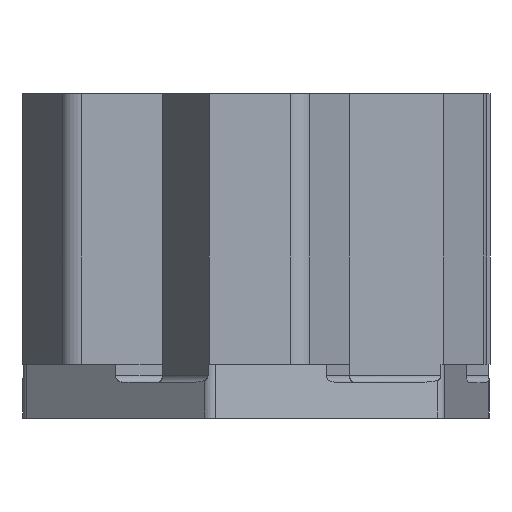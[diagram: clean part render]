
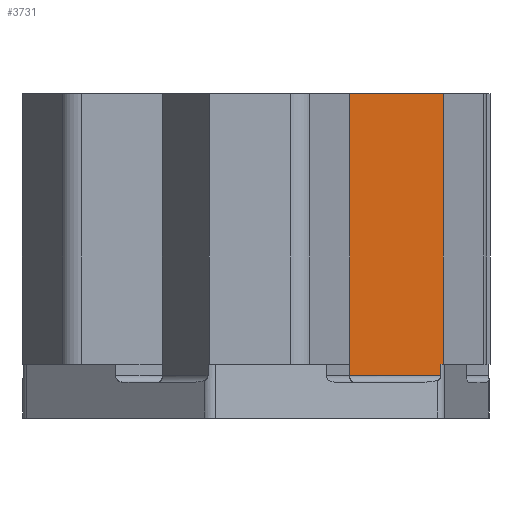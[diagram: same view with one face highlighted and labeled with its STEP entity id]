
A CAD part, front view. The second image highlights one B-rep face of the part: STEP entity #3731.
In plain terms, the highlighted planar face has unit normal (0, -1, 0).
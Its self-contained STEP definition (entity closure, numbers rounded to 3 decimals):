
#337 = VERTEX_POINT('',#338);
#338 = CARTESIAN_POINT('',(10.999,-19.05,31.75));
#344 = EDGE_CURVE('',#337,#345,#347,.T.);
#345 = VERTEX_POINT('',#346);
#346 = CARTESIAN_POINT('',(21.997,-19.05,31.75));
#347 = LINE('',#348,#349);
#348 = CARTESIAN_POINT('',(10.999,-19.05,31.75));
#349 = VECTOR('',#350,1.);
#350 = DIRECTION('',(1.,0.,0.));
#3136 = EDGE_CURVE('',#3137,#337,#3139,.T.);
#3137 = VERTEX_POINT('',#3138);
#3138 = CARTESIAN_POINT('',(10.999,-19.05,0.));
#3139 = LINE('',#3140,#3141);
#3140 = CARTESIAN_POINT('',(10.999,-19.05,0.));
#3141 = VECTOR('',#3142,1.);
#3142 = DIRECTION('',(0.,0.,1.));
#3712 = VERTEX_POINT('',#3713);
#3713 = CARTESIAN_POINT('',(21.997,-19.05,0.));
#3719 = EDGE_CURVE('',#3712,#345,#3720,.T.);
#3720 = LINE('',#3721,#3722);
#3721 = CARTESIAN_POINT('',(21.997,-19.05,0.));
#3722 = VECTOR('',#3723,1.);
#3723 = DIRECTION('',(0.,0.,1.));
#3731 = ADVANCED_FACE('',(#3732),#3767,.T.);
#3732 = FACE_BOUND('',#3733,.T.);
#3733 = EDGE_LOOP('',(#3734,#3742,#3750,#3758,#3764,#3765,#3766));
#3734 = ORIENTED_EDGE('',*,*,#3735,.T.);
#3735 = EDGE_CURVE('',#3137,#3736,#3738,.T.);
#3736 = VERTEX_POINT('',#3737);
#3737 = CARTESIAN_POINT('',(10.999,-19.05,-1.367));
#3738 = LINE('',#3739,#3740);
#3739 = CARTESIAN_POINT('',(10.999,-19.05,0.));
#3740 = VECTOR('',#3741,1.);
#3741 = DIRECTION('',(0.,0.,-1.));
#3742 = ORIENTED_EDGE('',*,*,#3743,.F.);
#3743 = EDGE_CURVE('',#3744,#3736,#3746,.T.);
#3744 = VERTEX_POINT('',#3745);
#3745 = CARTESIAN_POINT('',(21.722,-19.05,-1.367));
#3746 = LINE('',#3747,#3748);
#3747 = CARTESIAN_POINT('',(21.996,-19.05,-1.367));
#3748 = VECTOR('',#3749,1.);
#3749 = DIRECTION('',(-1.,0.,0.));
#3750 = ORIENTED_EDGE('',*,*,#3751,.F.);
#3751 = EDGE_CURVE('',#3752,#3744,#3754,.T.);
#3752 = VERTEX_POINT('',#3753);
#3753 = CARTESIAN_POINT('',(21.722,-19.05,0.));
#3754 = LINE('',#3755,#3756);
#3755 = CARTESIAN_POINT('',(21.722,-19.05,-1.433));
#3756 = VECTOR('',#3757,1.);
#3757 = DIRECTION('',(0.,0.,-1.));
#3758 = ORIENTED_EDGE('',*,*,#3759,.T.);
#3759 = EDGE_CURVE('',#3752,#3712,#3760,.T.);
#3760 = LINE('',#3761,#3762);
#3761 = CARTESIAN_POINT('',(10.999,-19.05,0.));
#3762 = VECTOR('',#3763,1.);
#3763 = DIRECTION('',(1.,0.,0.));
#3764 = ORIENTED_EDGE('',*,*,#3719,.T.);
#3765 = ORIENTED_EDGE('',*,*,#344,.F.);
#3766 = ORIENTED_EDGE('',*,*,#3136,.F.);
#3767 = PLANE('',#3768);
#3768 = AXIS2_PLACEMENT_3D('',#3769,#3770,#3771);
#3769 = CARTESIAN_POINT('',(16.498,-19.05,14.817));
#3770 = DIRECTION('',(0.,-1.,-0.));
#3771 = DIRECTION('',(-1.,0.,0.));
